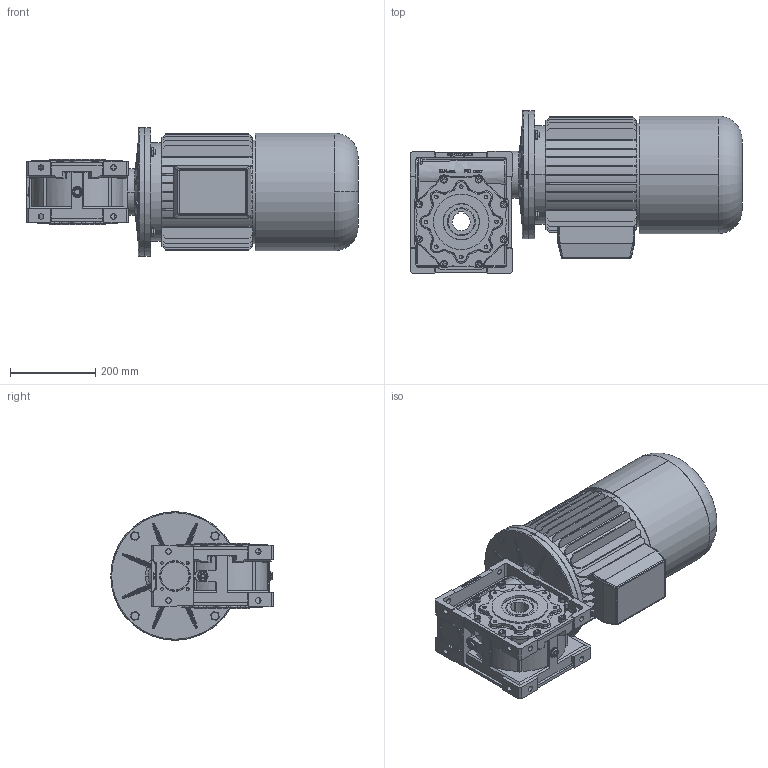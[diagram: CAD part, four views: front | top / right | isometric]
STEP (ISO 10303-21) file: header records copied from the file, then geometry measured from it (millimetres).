
FILE_DESCRIPTION((''),'2;1');
FILE_NAME('D:\_Assiemi MV\_File Sito\110\STP\MV110_B5-132SBRAKE.stp','2005-07-27T16:51:42',('tech2'),(''),'Autodesk Inventor 9','Autodesk Inventor 9','');
FILE_SCHEMA(('AUTOMOTIVE_DESIGN { 1 0 10303 214 1 1 1 1 }'));
Length unit declared in the file: millimetre
Products named in the file (16): MV110_B5-132SBRAKE; 4011001-A0; 4011004-A0; UNI 5931  (Filetto fine) M10 x  1.25 x  25; 4011008-A0; UNI-ISO 6194-1 (4) Tipo4 65 x  85 x  10; Capp-72-7; Guarnizione-tappo-3-8-gas; Tappo-3-8-gas-nero; Paraolio-50-80-7; FM-90-110-D=300; UNI 5739  (Filetto regolare) M12 x 35; UNI 5589  (Filetto regolare) M12; UNI 6592 13 x 24; motori B5 brake 132S
Assembly tree (36 placements, depth 3):
  MV110_B5-132SBRAKE
    4011001-A0
    4011004-A0
    UNI 5931  (Filetto fine) M10 x  1.25 x  25  x8
    4011008-A0
    UNI-ISO 6194-1 (4) Tipo4 65 x  85 x  10  x2
    Capp-72-7
    Guarnizione-tappo-3-8-gas  x3
    Tappo-3-8-gas-nero  x3
    Paraolio-50-80-7
    FM-90-110-D=300
      FM-90-110-D=300
      UNI 5739  (Filetto regolare) M12 x 35  x4
      UNI 5589  (Filetto regolare) M12  x4
      UNI 6592 13 x 24  x4
    motori B5 brake 132S
Bounding box: 777 x 380 x 300 mm (x, y, z)
Volume: 22102850.2 mm3; surface area: 2072739.7 mm2
Topology: 44 solids, 44 shells, 4444 faces, 11455 edges, 7207 vertices
Faces by surface type: plane 1552, cylinder 1342, bspline 1213, cone 267, torus 66, sphere 4
Entity records: 151297 total; most frequent: CARTESIAN_POINT 55139, ORIENTED_EDGE 20760, DIRECTION 19339, EDGE_CURVE 10380, AXIS2_PLACEMENT_3D 7115, VERTEX_POINT 6615, VECTOR 5109, LINE 5109
